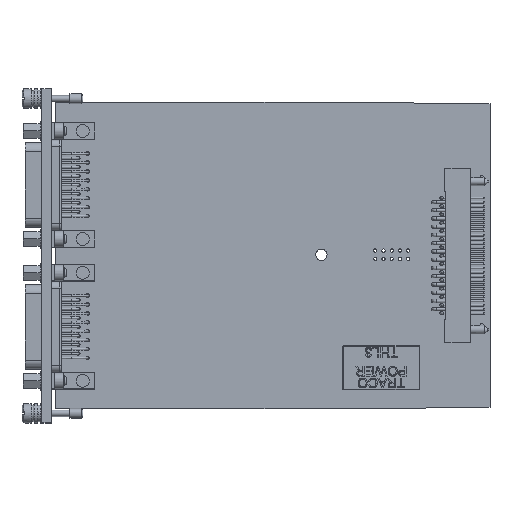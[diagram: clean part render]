
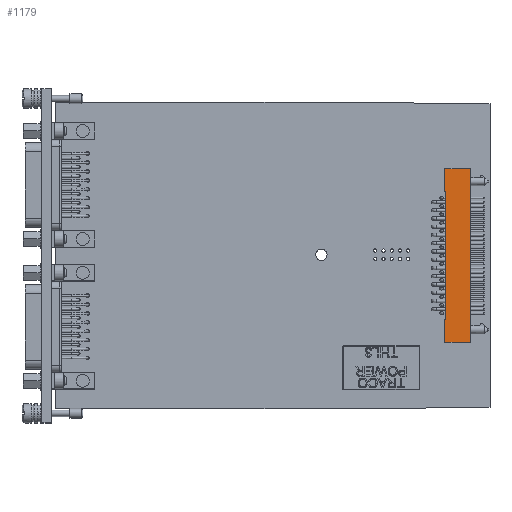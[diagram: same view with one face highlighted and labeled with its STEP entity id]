
A CAD part, top view. The second image highlights one B-rep face of the part: STEP entity #1179.
In plain terms, the highlighted planar face has unit normal (0, 0, 1).
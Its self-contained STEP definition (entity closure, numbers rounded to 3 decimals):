
#1179=ADVANCED_FACE('',(#20098),#20100,.F.);
#20098=FACE_BOUND('',#20099,.T.);
#20099=EDGE_LOOP('',(#37459,#37460,#37461,#37462,#37463,#37464,#37465,#37466));
#20100=PLANE('',#20101);
#20101=AXIS2_PLACEMENT_3D('',#20102,#20103,#20104);
#20102=CARTESIAN_POINT('',(120.075,20.595,6.35));
#20103=DIRECTION('',(0.,0.,-1.));
#20104=DIRECTION('',(-1.,0.,0.));
#37459=ORIENTED_EDGE('',*,*,#46952,.T.);
#37460=ORIENTED_EDGE('',*,*,#46909,.T.);
#37461=ORIENTED_EDGE('',*,*,#46907,.T.);
#37462=ORIENTED_EDGE('',*,*,#46905,.T.);
#37463=ORIENTED_EDGE('',*,*,#46903,.T.);
#37464=ORIENTED_EDGE('',*,*,#46872,.T.);
#37465=ORIENTED_EDGE('',*,*,#46956,.T.);
#37466=ORIENTED_EDGE('',*,*,#46954,.T.);
#46872=EDGE_CURVE('',#51844,#51842,#51845,.T.);
#46903=EDGE_CURVE('',#51905,#51844,#51906,.T.);
#46905=EDGE_CURVE('',#51908,#51905,#51909,.T.);
#46907=EDGE_CURVE('',#51911,#51908,#51912,.T.);
#46909=EDGE_CURVE('',#51914,#51911,#51915,.T.);
#46952=EDGE_CURVE('',#51999,#51914,#52000,.T.);
#46954=EDGE_CURVE('',#52002,#51999,#52003,.T.);
#46956=EDGE_CURVE('',#51842,#52002,#52005,.T.);
#51842=VERTEX_POINT('',#60719);
#51844=VERTEX_POINT('',#60723);
#51845=LINE('',#60724,#60725);
#51905=VERTEX_POINT('',#60875);
#51906=LINE('',#60876,#60877);
#51908=VERTEX_POINT('',#60882);
#51909=LINE('',#60883,#60884);
#51911=VERTEX_POINT('',#60889);
#51912=LINE('',#60890,#60891);
#51914=VERTEX_POINT('',#60896);
#51915=LINE('',#60897,#60898);
#51999=VERTEX_POINT('',#61096);
#52000=LINE('',#61097,#61098);
#52002=VERTEX_POINT('',#61103);
#52003=LINE('',#61104,#61105);
#52005=LINE('',#61110,#61111);
#60719=CARTESIAN_POINT('',(120.375,27.595,6.35));
#60723=CARTESIAN_POINT('',(120.375,67.095,6.35));
#60724=CARTESIAN_POINT('',(120.375,67.095,6.35));
#60725=VECTOR('',#60726,1.);
#60726=DIRECTION('',(0.,-1.,0.));
#60875=CARTESIAN_POINT('',(120.075,67.095,6.35));
#60876=CARTESIAN_POINT('',(120.075,67.095,6.35));
#60877=VECTOR('',#60878,1.);
#60878=DIRECTION('',(1.,0.,0.));
#60882=CARTESIAN_POINT('',(120.075,74.095,6.35));
#60883=CARTESIAN_POINT('',(120.075,74.095,6.35));
#60884=VECTOR('',#60885,1.);
#60885=DIRECTION('',(0.,-1.,0.));
#60889=CARTESIAN_POINT('',(127.975,74.095,6.35));
#60890=CARTESIAN_POINT('',(127.975,74.095,6.35));
#60891=VECTOR('',#60892,1.);
#60892=DIRECTION('',(-1.,0.,0.));
#60896=CARTESIAN_POINT('',(127.975,20.595,6.35));
#60897=CARTESIAN_POINT('',(127.975,20.595,6.35));
#60898=VECTOR('',#60899,1.);
#60899=DIRECTION('',(0.,1.,0.));
#61096=CARTESIAN_POINT('',(120.075,20.595,6.35));
#61097=CARTESIAN_POINT('',(120.075,20.595,6.35));
#61098=VECTOR('',#61099,1.);
#61099=DIRECTION('',(1.,0.,0.));
#61103=CARTESIAN_POINT('',(120.075,27.595,6.35));
#61104=CARTESIAN_POINT('',(120.075,27.595,6.35));
#61105=VECTOR('',#61106,1.);
#61106=DIRECTION('',(0.,-1.,0.));
#61110=CARTESIAN_POINT('',(120.375,27.595,6.35));
#61111=VECTOR('',#61112,1.);
#61112=DIRECTION('',(-1.,0.,0.));
